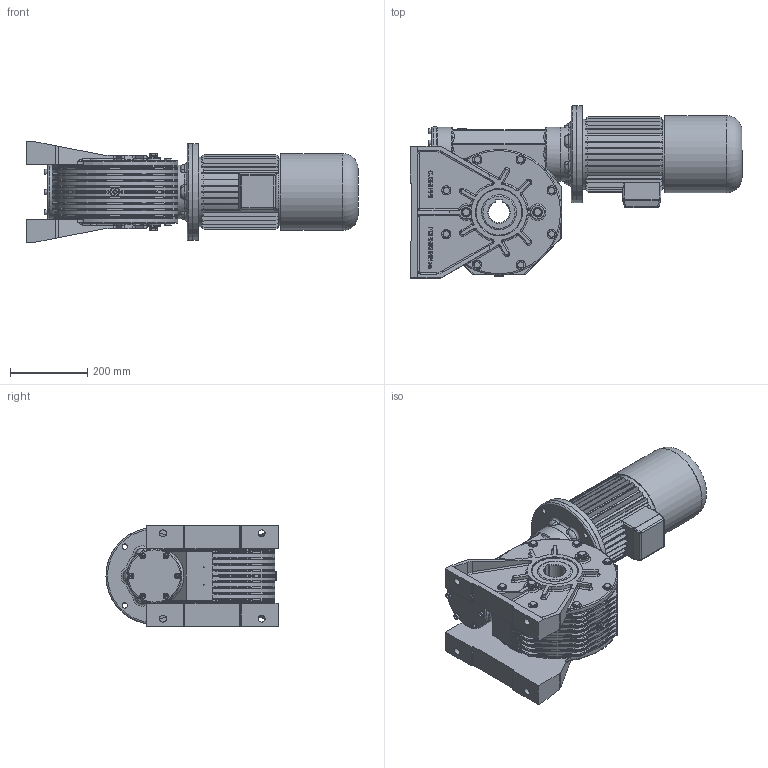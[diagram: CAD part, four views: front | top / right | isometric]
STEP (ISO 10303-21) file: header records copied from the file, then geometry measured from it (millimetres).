
FILE_DESCRIPTION((''),'2;1');
FILE_NAME('Y:\Archivi Inventor\Prog_01\GRAND_70\complessivi\Figurini\mrv70 sito\100 autofrenante\MRV70_P3_100_B5.stp','2013-02-08T14:49:21',('tech3'),(''),'Autodesk Inventor 2013','Autodesk Inventor 2013','');
FILE_SCHEMA(('AUTOMOTIVE_DESIGN { 1 0 10303 214 1 1 1 1 }'));
Length unit declared in the file: millimetre
Products named in the file (17): MRV70_100L_112M_B5; MRV70 figurino; 0107001-A0 figurino; 0107008.A0 figurino; 0107010.A0 figurino; 0107029; 0107009; 0107028; DIN 3760 AS AS - 90 x 120 x 12 - NBR; UNI 8839 A 8; Guarnizione 3_8 GAS; Tappo 3_8 GAS_esagn_incsst; DIN EN ISO 4762 M8 x 20; DIN EN 24017 M10 x 20; Tappo3_8 GAS; 0107006; motori B5 brake 100
Assembly tree (60 placements, depth 3):
  MRV70_100L_112M_B5
    MRV70 figurino
      0107001-A0 figurino
      0107008.A0 figurino
      0107010.A0 figurino  x2
      0107029  x2
      0107009
      0107028  x2
      DIN 3760 AS AS - 90 x 120 x 12 - NBR  x2
      UNI 8839 A 8  x6
      Guarnizione 3_8 GAS  x6
      Tappo 3_8 GAS_esagn_incsst  x2
      DIN EN ISO 4762 M8 x 20  x6
      DIN EN 24017 M10 x 20  x16
      Tappo3_8 GAS  x4
    0107006
    DIN EN ISO 4762 M8 x 20  x6
    motori B5 brake 100
Bounding box: 858.4 x 445 x 260.8 mm (x, y, z)
Volume: 24528951.8 mm3; surface area: 2365716.4 mm2
Topology: 60 solids, 60 shells, 3017 faces, 7559 edges, 4692 vertices
Faces by surface type: plane 1238, cylinder 668, bspline 655, cone 243, torus 205, sphere 8
Full cylindrical faces by diameter (mm): 2 x2, 5 x1, 6.647 x12, 8 x14, 8.376 x16, 8.5 x24, 10 x16, 10.5 x16, 11 x16, 13 x12, 13.046 x4, 14 x8, 14.63 x16, 14.95 x6, 16.3 x6, 16.5 x2, 18 x4, 20 x6, 22 x12, 24 x18, 25 x4, 28 x1, 61 x1, 75 x1, 90 x4, 97.2 x2, 100 x6, 114 x2, 120 x4, 139 x2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
Entity records: 68759 total; most frequent: CARTESIAN_POINT 25142, ORIENTED_EDGE 8986, DIRECTION 8130, EDGE_CURVE 4493, AXIS2_PLACEMENT_3D 3073, VERTEX_POINT 2920, EDGE_LOOP 2267, VECTOR 1984
